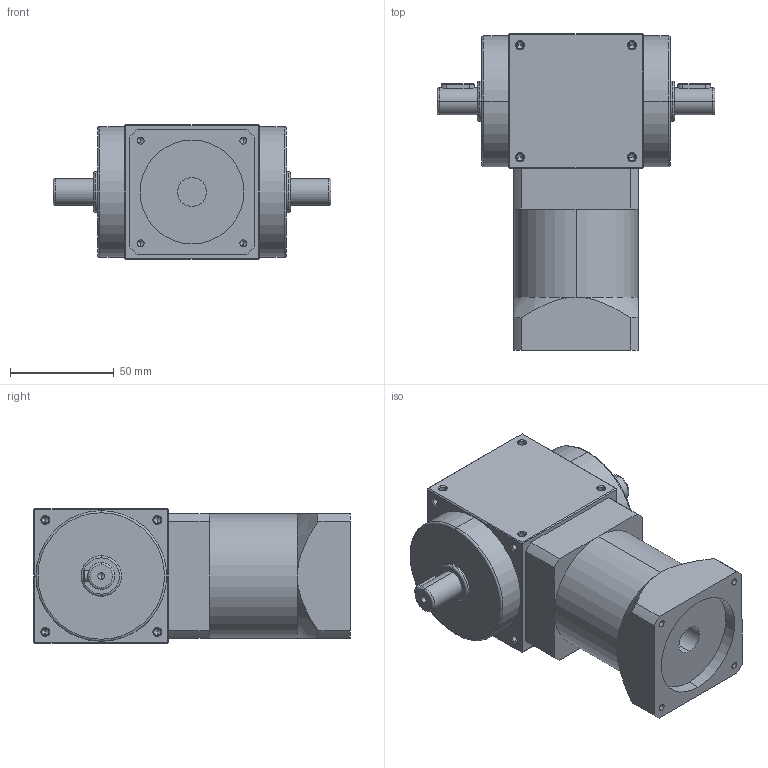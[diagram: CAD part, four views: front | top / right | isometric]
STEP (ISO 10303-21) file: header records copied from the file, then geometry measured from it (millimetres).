
FILE_DESCRIPTION (( 'STEP AP214' ), '1' );
FILE_NAME ('AT065-FL-L1-400W.STEP', '2020-03-17T04:08:47', ( 'User' ), ( 'Far123' ), 'SwSTEP 2.0', 'SolidWorks 2015', '' );
FILE_SCHEMA (( 'AUTOMOTIVE_DESIGN' ));
Length unit declared in the file: millimetre
Products named in the file (1): AT065-FL-L1-400W
Bounding box: 134 x 152.5 x 65 mm (x, y, z)
Volume: 622619.6 mm3; surface area: 55730.7 mm2
Topology: 1 solids, 2 shells, 295 faces, 724 edges, 394 vertices
Faces by surface type: cylinder 124, cone 100, plane 59, torus 12
Entity records: 9442 total; most frequent: CARTESIAN_POINT 1946, DIRECTION 1376, ORIENTED_EDGE 1344, EDGE_CURVE 672, AXIS2_PLACEMENT_3D 532, VERTEX_POINT 394, EDGE_LOOP 332, VECTOR 312
